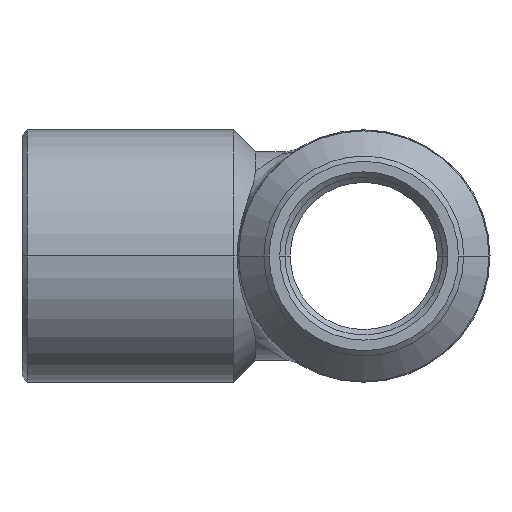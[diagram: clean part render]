
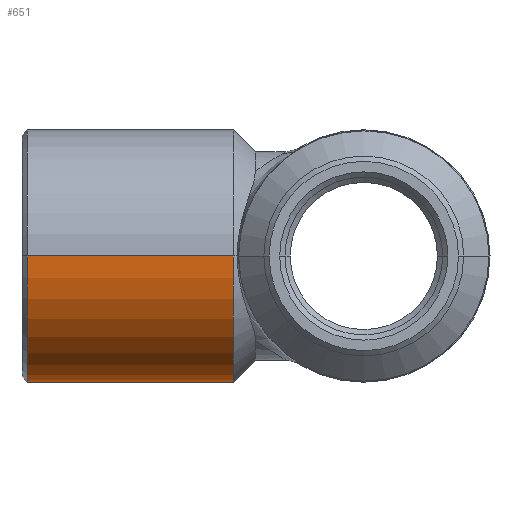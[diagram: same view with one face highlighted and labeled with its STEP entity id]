
A CAD part, left-side view. The second image highlights one B-rep face of the part: STEP entity #651.
In plain terms, the highlighted cylindrical face has radius 4.8 mm (diameter 9.6 mm), a partial arc.
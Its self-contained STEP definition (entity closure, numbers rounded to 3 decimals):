
#91=CARTESIAN_POINT('',(-4.8,4.96,0.));
#92=VERTEX_POINT('',#91);
#101=CARTESIAN_POINT('',(4.8,4.96,0.));
#102=VERTEX_POINT('',#101);
#103=CARTESIAN_POINT('',(0.,4.96,0.0));
#104=DIRECTION('',(0.0,-1.0,0.0));
#105=DIRECTION('',(-1.0,0.0,0.0));
#106=AXIS2_PLACEMENT_3D('',#103,#104,#105);
#107=CIRCLE('',#106,4.8);
#108=EDGE_CURVE('',#92,#102,#107,.T.);
#620=CARTESIAN_POINT('',(0.,13.0,0.0));
#621=DIRECTION('',(0.,-1.0,0.0));
#622=DIRECTION('',(-1.0,0.0,0.0));
#623=AXIS2_PLACEMENT_3D('',#620,#621,#622);
#624=CYLINDRICAL_SURFACE('',#623,4.8);
#625=CARTESIAN_POINT('',(-4.8,12.8,0.));
#626=VERTEX_POINT('',#625);
#627=CARTESIAN_POINT('',(-4.8,12.8,0.));
#628=DIRECTION('',(0.0,-1.0,0.0));
#629=VECTOR('',#628,7.84);
#630=LINE('',#627,#629);
#631=EDGE_CURVE('',#626,#92,#630,.T.);
#632=ORIENTED_EDGE('',*,*,#631,.F.);
#633=CARTESIAN_POINT('',(4.8,12.8,0.));
#634=VERTEX_POINT('',#633);
#635=CARTESIAN_POINT('',(0.,12.8,0.0));
#636=DIRECTION('',(0.0,1.0,0.0));
#637=DIRECTION('',(-1.0,0.0,0.0));
#638=AXIS2_PLACEMENT_3D('',#635,#636,#637);
#639=CIRCLE('',#638,4.8);
#640=EDGE_CURVE('',#634,#626,#639,.T.);
#641=ORIENTED_EDGE('',*,*,#640,.F.);
#642=CARTESIAN_POINT('',(4.8,4.96,0.));
#643=DIRECTION('',(0.0,1.0,0.0));
#644=VECTOR('',#643,7.84);
#645=LINE('',#642,#644);
#646=EDGE_CURVE('',#102,#634,#645,.T.);
#647=ORIENTED_EDGE('',*,*,#646,.F.);
#648=ORIENTED_EDGE('',*,*,#108,.F.);
#649=EDGE_LOOP('',(#632,#641,#647,#648));
#650=FACE_OUTER_BOUND('',#649,.T.);
#651=ADVANCED_FACE('',(#650),#624,.T.);
